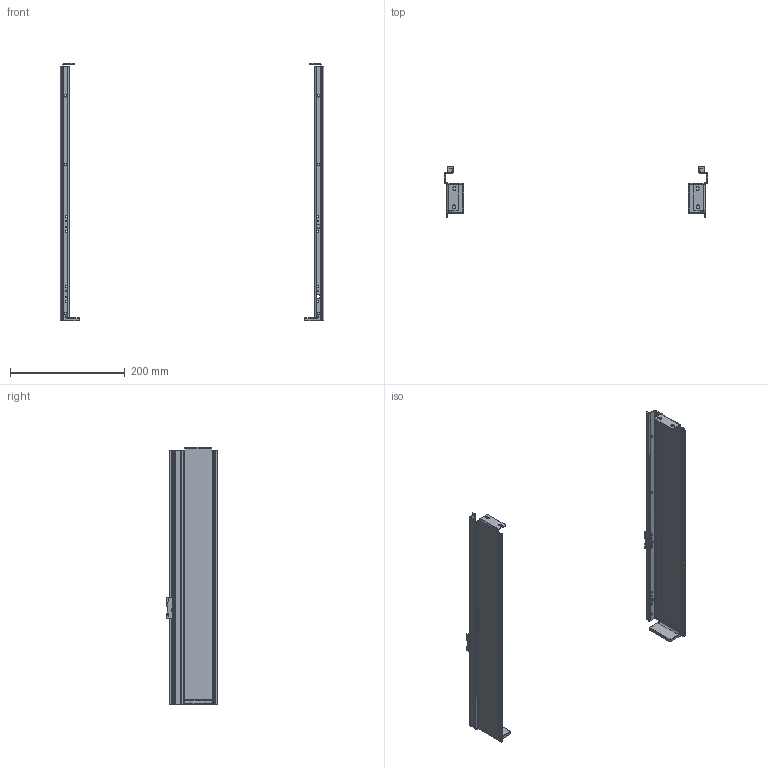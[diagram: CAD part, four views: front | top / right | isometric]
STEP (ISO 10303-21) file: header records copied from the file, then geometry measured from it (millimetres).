
FILE_DESCRIPTION(/* description */ (''),/* implementation_level */ '2;1');
FILE_NAME(/* name */ 'C:\Users\dmitruk\Documents\WORK\\X2\041D0410041F042004100412041B042F042E042904180415\X0\\ULTRA SLIM\\X2\0411043E043A043E04320438043D043A0438\X0\ Q-Type\Боковинки Q-Type-450 низкий.stp',/* time_stamp */ '2022-07-28T10:09:11+03:00',/* author */ ('dmitruk'),/* organization */ (''),/* preprocessor_version */ 'ST-DEVELOPER v16.5',/* originating_system */ 'Autodesk Inventor 2017',/* authorisation */ '');
FILE_SCHEMA (('AUTOMOTIVE_DESIGN { 1 0 10303 214 3 1 1 }'));
Length unit declared in the file: millimetre
Products named in the file (3): Боковинки Q-Type; Боковина USLIM; Боковина USLIM L
Assembly tree (2 placements, depth 2):
  Боковинки Q-Type
    Боковина USLIM
    Боковина USLIM L
Bounding box: 459.6 x 88.4 x 448 mm (x, y, z)
Volume: 144076.6 mm3; surface area: 205639.6 mm2
Topology: 8 solids, 8 shells, 472 faces, 1304 edges, 852 vertices
Faces by surface type: plane 206, cylinder 194, torus 36, bspline 28, sphere 8
Full cylindrical faces by diameter (mm): 2 x6, 4.2 x18, 6 x2, 7 x2, 8 x4
Entity records: 15907 total; most frequent: CARTESIAN_POINT 3101, DIRECTION 2654, ORIENTED_EDGE 2500, EDGE_CURVE 1250, AXIS2_PLACEMENT_3D 963, VERTEX_POINT 830, LINE 728, VECTOR 728
